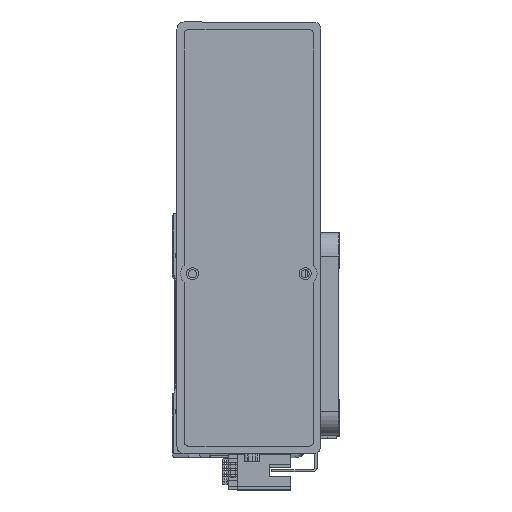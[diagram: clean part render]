
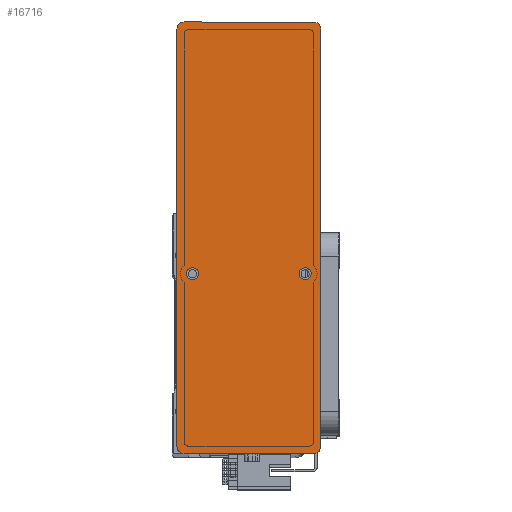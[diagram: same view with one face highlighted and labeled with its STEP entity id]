
A CAD part, top view. The second image highlights one B-rep face of the part: STEP entity #16716.
In plain terms, the highlighted planar face has unit normal (0, 0, 1) as drawn and (0, 0, -1) by its records, which use the part's own axes.
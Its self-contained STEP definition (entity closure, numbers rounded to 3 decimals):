
#308 = EDGE_CURVE ( 'NONE', #30812, #2524, #41600, .T. ) ;
#914 = VERTEX_POINT ( 'NONE', #2278 ) ;
#1165 = LINE ( 'NONE', #44541, #26353 ) ;
#1687 = CARTESIAN_POINT ( 'NONE',  ( -15., -23.5, 0. ) ) ;
#1952 = VERTEX_POINT ( 'NONE', #47099 ) ;
#2089 = VERTEX_POINT ( 'NONE', #57420 ) ;
#2206 = EDGE_LOOP ( 'NONE', ( #58041, #4188 ) ) ;
#2278 = CARTESIAN_POINT ( 'NONE',  ( -17.5, 23.5, 0. ) ) ;
#2524 = VERTEX_POINT ( 'NONE', #40429 ) ;
#2691 = AXIS2_PLACEMENT_3D ( 'NONE', #1687, #34798, #6405 ) ;
#3409 = VERTEX_POINT ( 'NONE', #47914 ) ;
#3501 = VERTEX_POINT ( 'NONE', #38870 ) ;
#4188 = ORIENTED_EDGE ( 'NONE', *, *, #21333, .F. ) ;
#4329 = AXIS2_PLACEMENT_3D ( 'NONE', #36883, #22811, #55920 ) ;
#4960 = DIRECTION ( 'NONE',  ( -1., 0., 0. ) ) ;
#5226 = CARTESIAN_POINT ( 'NONE',  ( 90., -27., 0. ) ) ;
#5822 = DIRECTION ( 'NONE',  ( 0., -1., 0. ) ) ;
#5952 = CIRCLE ( 'NONE', #47517, 2.5 ) ;
#6405 = DIRECTION ( 'NONE',  ( -1., 0., 0. ) ) ;
#8188 = CARTESIAN_POINT ( 'NONE',  ( 87., 27., 0. ) ) ;
#11058 = VERTEX_POINT ( 'NONE', #38027 ) ;
#11263 = DIRECTION ( 'NONE',  ( 0., 1., 0. ) ) ;
#11495 = CARTESIAN_POINT ( 'NONE',  ( 87., -27., 0. ) ) ;
#12959 = DIRECTION ( 'NONE',  ( 1., 0., 0. ) ) ;
#13304 = PLANE ( 'NONE',  #4329 ) ;
#14624 = AXIS2_PLACEMENT_3D ( 'NONE', #45760, #17431, #50539 ) ;
#16235 = DIRECTION ( 'NONE',  ( 1., 0., 0. ) ) ;
#16716 = ADVANCED_FACE ( 'NONE', ( #16771, #29309, #54536 ), #13304, .F. ) ;
#16771 = FACE_BOUND ( 'NONE', #2206, .T. ) ;
#17278 = EDGE_CURVE ( 'NONE', #2089, #48395, #49960, .T. ) ;
#17431 = DIRECTION ( 'NONE',  ( 0., 0., -1. ) ) ;
#17433 = VERTEX_POINT ( 'NONE', #26438 ) ;
#19068 = CARTESIAN_POINT ( 'NONE',  ( 90., 30., 0. ) ) ;
#19716 = EDGE_CURVE ( 'NONE', #31720, #3501, #37426, .T. ) ;
#20028 = DIRECTION ( 'NONE',  ( 0., 0., -1. ) ) ;
#20253 = DIRECTION ( 'NONE',  ( 0., 0., -1. ) ) ;
#20419 = ORIENTED_EDGE ( 'NONE', *, *, #53456, .T. ) ;
#21333 = EDGE_CURVE ( 'NONE', #17433, #914, #5952, .T. ) ;
#22701 = ORIENTED_EDGE ( 'NONE', *, *, #26139, .F. ) ;
#22811 = DIRECTION ( 'NONE',  ( 0., 0., 1. ) ) ;
#22815 = EDGE_CURVE ( 'NONE', #914, #17433, #48370, .T. ) ;
#22934 = DIRECTION ( 'NONE',  ( 0., 0., -1. ) ) ;
#23636 = VECTOR ( 'NONE', #4960, 1000. ) ;
#24605 = ORIENTED_EDGE ( 'NONE', *, *, #44722, .T. ) ;
#24790 = ORIENTED_EDGE ( 'NONE', *, *, #42695, .T. ) ;
#26139 = EDGE_CURVE ( 'NONE', #31720, #1952, #61391, .T. ) ;
#26353 = VECTOR ( 'NONE', #11263, 1000. ) ;
#26438 = CARTESIAN_POINT ( 'NONE',  ( -12.5, 23.5, 0. ) ) ;
#27145 = VERTEX_POINT ( 'NONE', #5226 ) ;
#27184 = DIRECTION ( 'NONE',  ( 0., 0., -1. ) ) ;
#29309 = FACE_BOUND ( 'NONE', #57953, .T. ) ;
#30812 = VERTEX_POINT ( 'NONE', #46449 ) ;
#30872 = AXIS2_PLACEMENT_3D ( 'NONE', #48616, #20253, #53393 ) ;
#31720 = VERTEX_POINT ( 'NONE', #34189 ) ;
#33047 = CIRCLE ( 'NONE', #46009, 3. ) ;
#34147 = ORIENTED_EDGE ( 'NONE', *, *, #39068, .F. ) ;
#34189 = CARTESIAN_POINT ( 'NONE',  ( 87., 30., 0. ) ) ;
#34794 = CIRCLE ( 'NONE', #2691, 2.5 ) ;
#34798 = DIRECTION ( 'NONE',  ( 0., 0., -1. ) ) ;
#35870 = EDGE_LOOP ( 'NONE', ( #34147, #24605, #59937, #24790, #53324, #20419, #22701, #57458 ) ) ;
#36071 = ORIENTED_EDGE ( 'NONE', *, *, #308, .F. ) ;
#36499 = ORIENTED_EDGE ( 'NONE', *, *, #43066, .F. ) ;
#36883 = CARTESIAN_POINT ( 'NONE',  ( 0., 0., 0. ) ) ;
#37426 = CIRCLE ( 'NONE', #48630, 3. ) ;
#38027 = CARTESIAN_POINT ( 'NONE',  ( -90., -27., 0. ) ) ;
#38847 = VECTOR ( 'NONE', #52307, 1000. ) ;
#38870 = CARTESIAN_POINT ( 'NONE',  ( 90., 27., 0. ) ) ;
#39068 = EDGE_CURVE ( 'NONE', #27145, #3501, #1165, .T. ) ;
#40429 = CARTESIAN_POINT ( 'NONE',  ( -12.5, -23.5, 0. ) ) ;
#41296 = DIRECTION ( 'NONE',  ( 0., 0., -1. ) ) ;
#41600 = CIRCLE ( 'NONE', #14624, 2.5 ) ;
#42619 = LINE ( 'NONE', #53249, #56707 ) ;
#42695 = EDGE_CURVE ( 'NONE', #2089, #11058, #57799, .T. ) ;
#43066 = EDGE_CURVE ( 'NONE', #2524, #30812, #34794, .T. ) ;
#44541 = CARTESIAN_POINT ( 'NONE',  ( 90., -30., 0. ) ) ;
#44565 = DIRECTION ( 'NONE',  ( 0., 0., -1. ) ) ;
#44722 = EDGE_CURVE ( 'NONE', #27145, #48395, #33047, .T. ) ;
#45760 = CARTESIAN_POINT ( 'NONE',  ( -15., -23.5, 0. ) ) ;
#46009 = AXIS2_PLACEMENT_3D ( 'NONE', #11495, #44565, #16235 ) ;
#46449 = CARTESIAN_POINT ( 'NONE',  ( -17.5, -23.5, 0. ) ) ;
#47099 = CARTESIAN_POINT ( 'NONE',  ( -87., 30., 0. ) ) ;
#47473 = AXIS2_PLACEMENT_3D ( 'NONE', #55544, #27184, #60293 ) ;
#47517 = AXIS2_PLACEMENT_3D ( 'NONE', #48379, #20028, #53146 ) ;
#47542 = CARTESIAN_POINT ( 'NONE',  ( 90., -30., 0. ) ) ;
#47914 = CARTESIAN_POINT ( 'NONE',  ( -90., 27., 0. ) ) ;
#48277 = CARTESIAN_POINT ( 'NONE',  ( 87., -30., 0. ) ) ;
#48370 = CIRCLE ( 'NONE', #48437, 2.5 ) ;
#48379 = CARTESIAN_POINT ( 'NONE',  ( -15., 23.5, 0. ) ) ;
#48395 = VERTEX_POINT ( 'NONE', #48277 ) ;
#48437 = AXIS2_PLACEMENT_3D ( 'NONE', #51268, #22934, #56026 ) ;
#48616 = CARTESIAN_POINT ( 'NONE',  ( -87., 27., 0. ) ) ;
#48630 = AXIS2_PLACEMENT_3D ( 'NONE', #8188, #41296, #12959 ) ;
#48852 = CIRCLE ( 'NONE', #30872, 3. ) ;
#49960 = LINE ( 'NONE', #47542, #38847 ) ;
#50539 = DIRECTION ( 'NONE',  ( -1., 0., 0. ) ) ;
#51268 = CARTESIAN_POINT ( 'NONE',  ( -15., 23.5, 0. ) ) ;
#51423 = EDGE_CURVE ( 'NONE', #3409, #11058, #42619, .T. ) ;
#52307 = DIRECTION ( 'NONE',  ( 1., 0., 0. ) ) ;
#53146 = DIRECTION ( 'NONE',  ( -1., 0., 0. ) ) ;
#53249 = CARTESIAN_POINT ( 'NONE',  ( -90., -30., 0. ) ) ;
#53324 = ORIENTED_EDGE ( 'NONE', *, *, #51423, .F. ) ;
#53393 = DIRECTION ( 'NONE',  ( 1., 0., 0. ) ) ;
#53456 = EDGE_CURVE ( 'NONE', #3409, #1952, #48852, .T. ) ;
#54536 = FACE_OUTER_BOUND ( 'NONE', #35870, .T. ) ;
#55544 = CARTESIAN_POINT ( 'NONE',  ( -87., -27., 0. ) ) ;
#55920 = DIRECTION ( 'NONE',  ( 1., 0., 0. ) ) ;
#56026 = DIRECTION ( 'NONE',  ( -1., 0., 0. ) ) ;
#56707 = VECTOR ( 'NONE', #5822, 1000. ) ;
#57420 = CARTESIAN_POINT ( 'NONE',  ( -87., -30., 0. ) ) ;
#57458 = ORIENTED_EDGE ( 'NONE', *, *, #19716, .T. ) ;
#57799 = CIRCLE ( 'NONE', #47473, 3. ) ;
#57953 = EDGE_LOOP ( 'NONE', ( #36071, #36499 ) ) ;
#58041 = ORIENTED_EDGE ( 'NONE', *, *, #22815, .F. ) ;
#59937 = ORIENTED_EDGE ( 'NONE', *, *, #17278, .F. ) ;
#60293 = DIRECTION ( 'NONE',  ( 1., 0., 0. ) ) ;
#61391 = LINE ( 'NONE', #19068, #23636 ) ;
